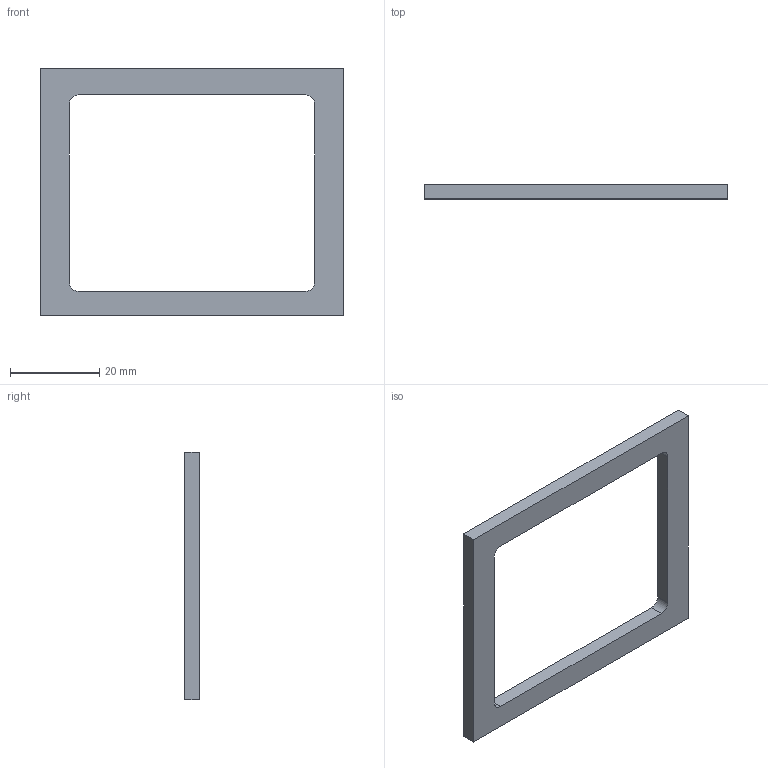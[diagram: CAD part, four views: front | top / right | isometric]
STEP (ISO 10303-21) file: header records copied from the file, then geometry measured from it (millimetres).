
FILE_DESCRIPTION(('Open CASCADE Model'),'2;1');
FILE_NAME('Open CASCADE Shape Model','2026-11-07T14:08:15',('Author'),( 'Open CASCADE'),'Open CASCADE STEP processor 7.9','Open CASCADE 7.9' ,'Unknown');
FILE_SCHEMA(('AUTOMOTIVE_DESIGN { 1 0 10303 214 1 1 1 1 }'));
Length unit declared in the file: millimetre
Products named in the file (1): Open CASCADE STEP translator 7.9 22
Bounding box: 68 x 3.2 x 55.5 mm (x, y, z)
Volume: 4343.8 mm3; surface area: 4127.9 mm2
Topology: 1 solids, 1 shells, 14 faces, 36 edges, 24 vertices
Faces by surface type: plane 10, cylinder 4
Entity records: 894 total; most frequent: CARTESIAN_POINT 163, DIRECTION 130, LINE 76, VECTOR 76, ORIENTED_EDGE 72, PCURVE 72, DEFINITIONAL_REPRESENTATION 72, EDGE_CURVE 36
